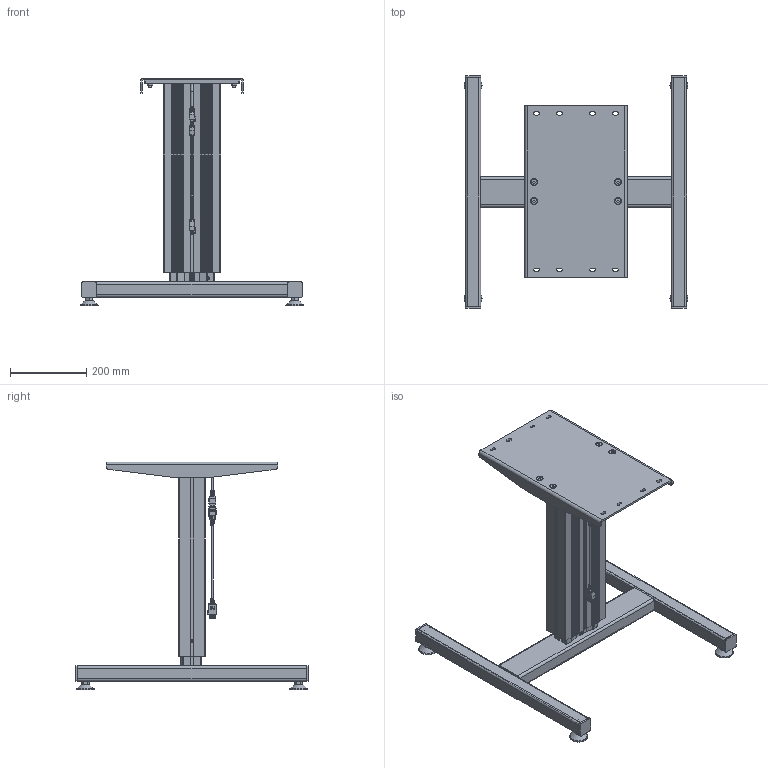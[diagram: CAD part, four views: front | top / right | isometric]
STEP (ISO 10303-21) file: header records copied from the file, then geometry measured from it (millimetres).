
FILE_DESCRIPTION(/* description */ ('Unknown'),/* implementation_level */ '2;1');
FILE_NAME(/* name */ 'Untergestell SM-1 1430 XX XX_01-Eingefahren',/* time_stamp */ '2022-01-27T14:02:56+01:00',/* author */ ('Unknown'),/* organization */ ('Unknown'),/* preprocessor_version */ 'ST-DEVELOPER v18.1',/* originating_system */ 'Solid Edge',/* authorisation */ 'Unknown');
FILE_SCHEMA (('AUTOMOTIVE_DESIGN {1 0 10303 214 3 1 1}'));
Products named in the file (25): Untergestell SM-1 1430 XX XX; 902.00003_oa_0; 126.00138; 119.00315; 119.00314; 142.00166; 124.00201_oa_1; 142.00241; 110.00104_oa_2; 115.00200_oa_3; 124.00151; Kabel Motor Sx; 142.00343; 115.00166; 127.00328; 142.00279; 142.00068; 115.00167; 127.00326; Fuss SM-1 Stütze; Fuss SM-1 Querbalken; 113.00006; 113.00006-ohne Mutter; Mutter M10; 142.00261
Assembly tree (42 placements, depth 4):
  Untergestell SM-1 1430 XX XX
    902.00003_oa_0
      126.00138
      119.00315
      119.00314
      142.00166  x4
      124.00201_oa_1
      142.00241  x2
      110.00104_oa_2
      115.00200_oa_3
      124.00151
      Kabel Motor Sx
      142.00343  x2
    115.00166
      127.00328
      142.00279  x4
      142.00068  x4
    115.00167
      127.00326
        Fuss SM-1 Stütze  x2
        Fuss SM-1 Querbalken
      113.00006  x4
        113.00006-ohne Mutter
        Mutter M10
      142.00261  x4
Bounding box: 587 x 610 x 598 mm (x, y, z)
Volume: 3974841.6 mm3; surface area: 1986809.5 mm2
Topology: 37 solids, 37 shells, 3942 faces, 10896 edges, 7184 vertices
Faces by surface type: plane 2203, cylinder 1403, cone 144, torus 113, bspline 73, sphere 6
Full cylindrical faces by diameter (mm): 1.5 x6, 1.82 x6, 2.459 x1, 2.7 x6, 3.242 x2, 3.4 x1, 4 x4, 5 x5, 5.5 x4, 6 x3, 6.647 x4, 7 x2, 8 x6, 8.376 x8, 8.5 x8, 8.7 x4, 9 x4, 9.5 x4, 10 x4, 15 x4, 19 x4, 25 x8, 29 x4, 30 x2, 35 x4, 39 x4, 47 x4
Entity records: 135963 total; most frequent: CARTESIAN_POINT 24380, ORIENTED_EDGE 19672, DIRECTION 19294, EDGE_CURVE 9836, VERTEX_POINT 6571, AXIS2_PLACEMENT_3D 6469, LINE 6356, VECTOR 6356
